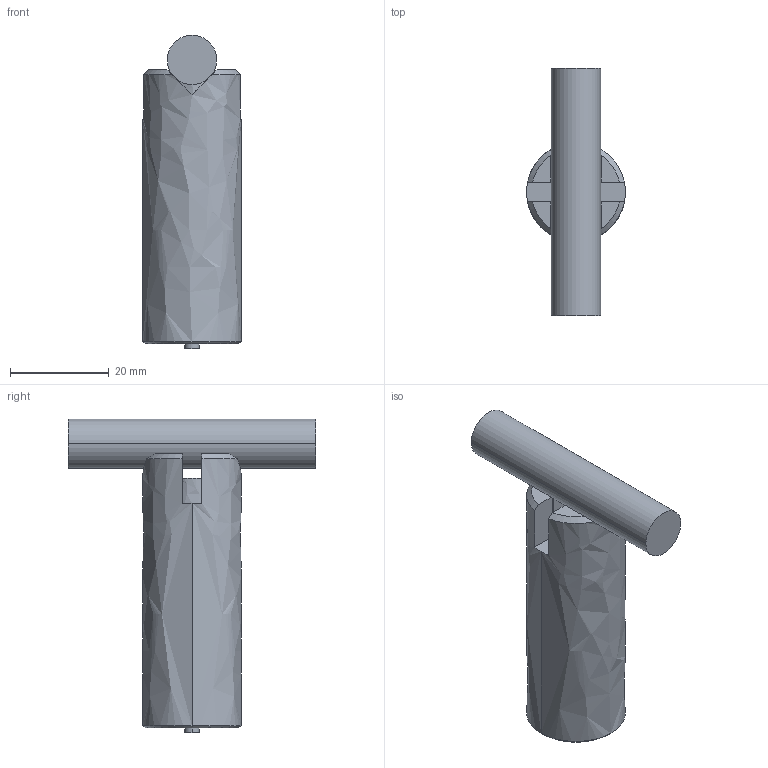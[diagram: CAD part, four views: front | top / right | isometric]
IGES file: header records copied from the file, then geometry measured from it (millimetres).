
Start section: Elysium IGES Interface
Global section: file name: 82HS:\5_測器センサ開発部\2課\2係\30_3D-CAD\20_オプション\01_Calゲージセット\501用.igs; native system: Creo Elements/Direct Modeling 18.1C  24-Feb-2013; preprocessor: Creo Element/Direct IGES_3D V2.2; author: Unknown; organization: Unknown; date: 20180914.194813; units: millimetre
Bounding box: 20 x 50 x 63.5 mm (x, y, z)
Volume: 20564.9 mm3; surface area: 7325.2 mm2
Topology: 4 solids, 4 shells, 59 faces, 146 edges, 96 vertices
Faces by surface type: bspline 59
